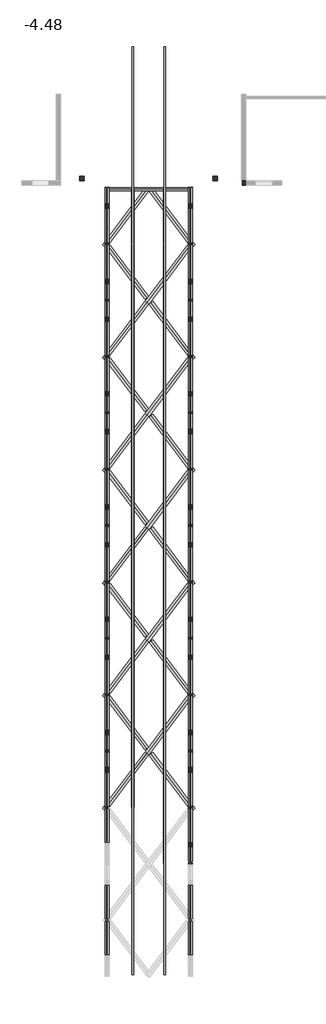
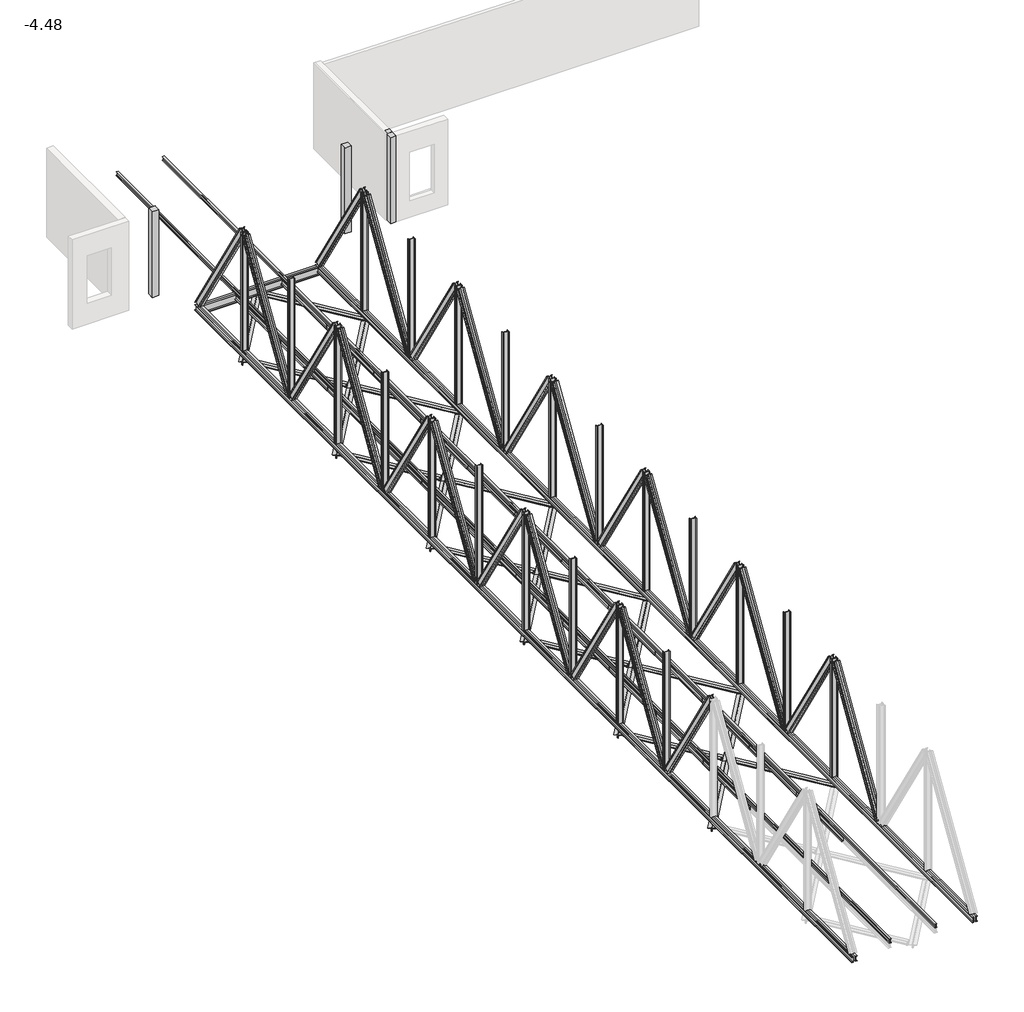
# One storey, part 3 of 4: 94 beams, 3 columns.
"""IFC4 building model written with IfcOpenShell, lengths in millimetres."""

from ifc_helpers import new_model, si_unit, origin, place, context, project, spatial, faceted_brep, transform, mapped, element, save
from components import beam_69747abd, beam_eb555228, beam_77b3a67a, beam_fd1f4b1d, beam_1ba59c2f, beam_2c250x37_978da5da, beam_2c250x37_2629953b, beam_2c250x37_c125c019, beam_2c250x37_d0_5cd3afa0, beam_2c250x37_d0_528e7289, beam_2c250x37_d0_b1fd0093, beam_2c380x74_f030002c, travi_ipe_ipe180_8526419e

model = new_model("IFC4")

# Units and contexts
model_context = context("Model", 3, world=origin())
ifc_project = project(units=[si_unit("LENGTHUNIT", "METRE", prefix="MILLI")], contexts=[model_context])

# Site, building, storey
site = spatial("IfcSite", under=ifc_project)
building = spatial("IfcBuilding", under=site)
storey = spatial("IfcBuildingStorey", under=building, Name="-4.48", Elevation=-4480.0)

# Beams
placement = place(None, origin())
beam_shape = beam_69747abd(model_context)
element("IfcBeam", 1, ObjectType="Profilati doppi a L : DCED150x12", at=placement, inside=storey, context=model_context, shape_type="MappedRepresentation", body=[
    mapped(beam_shape, transform((6661.2738573, -11553.3513769, -5576.4), x_axis=(-0.6018150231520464, 0.7986355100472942, 0.0), y_axis=(-0.7986355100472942, -0.6018150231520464, 0.0), z_axis=(0.0, 0.0, 1.0))),
])
element("IfcBeam", 2, ObjectType="Profilati doppi a L : DCED150x12", at=placement, inside=storey, context=model_context, shape_type="MappedRepresentation", body=[
    mapped(beam_shape, transform((6661.2738573, -4124.7799483, -5576.4), x_axis=(-0.6018150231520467, 0.798635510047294, 0.0), y_axis=(-0.798635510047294, -0.6018150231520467, 0.0), z_axis=(0.0, 0.0, 1.0))),
])
element("IfcBeam", 3, ObjectType="Profilati doppi a L : DCED150x12", at=placement, inside=storey, context=model_context, shape_type="MappedRepresentation", body=[
    mapped(beam_shape, transform((6661.2738573, 3303.7914803, -5576.4), x_axis=(-0.6018150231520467, 0.798635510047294, 0.0), y_axis=(-0.798635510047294, -0.6018150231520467, 0.0), z_axis=(0.0, 0.0, 1.0))),
])
element("IfcBeam", 4, ObjectType="Profilati doppi a L : DCED150x12", at=placement, inside=storey, context=model_context, shape_type="MappedRepresentation", body=[
    mapped(beam_shape, transform((6661.2738573, 10732.3629088, -5576.4), x_axis=(-0.6018150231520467, 0.798635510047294, 0.0), y_axis=(-0.798635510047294, -0.6018150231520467, 0.0), z_axis=(0.0, 0.0, 1.0))),
])
element("IfcBeam", 5, ObjectType="Profilati doppi a L : DCED150x12", at=placement, inside=storey, context=model_context, shape_type="MappedRepresentation", body=[
    mapped(beam_shape, transform((6661.2738573, 18160.9343374, -5576.4), x_axis=(-0.6018150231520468, 0.7986355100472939, 0.0), y_axis=(-0.7986355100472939, -0.6018150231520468, 0.0), z_axis=(0.0, 0.0, 1.0))),
])
beam_2_shape = beam_eb555228(model_context)
element("IfcBeam", 6, ObjectType="Profilati doppi a L : DCED150x12", at=placement, inside=storey, context=model_context, shape_type="MappedRepresentation", body=[
    mapped(beam_2_shape, transform((9429.6229638, -11553.3513769, -5576.4), x_axis=(0.6018150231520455, 0.7986355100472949, 0.0), y_axis=(-0.7986355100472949, 0.6018150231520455, 0.0), z_axis=(0.0, 0.0, 1.0))),
])
element("IfcBeam", 7, ObjectType="Profilati doppi a L : DCED150x12", at=placement, inside=storey, context=model_context, shape_type="MappedRepresentation", body=[
    mapped(beam_2_shape, transform((9429.6229638, -4124.7799483, -5576.4), x_axis=(0.6018150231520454, 0.7986355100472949, 0.0), y_axis=(-0.7986355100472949, 0.6018150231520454, 0.0), z_axis=(0.0, 0.0, 1.0))),
])
element("IfcBeam", 8, ObjectType="Profilati doppi a L : DCED150x12", at=placement, inside=storey, context=model_context, shape_type="MappedRepresentation", body=[
    mapped(beam_2_shape, transform((9429.6229638, 3303.7914803, -5576.4), x_axis=(0.6018150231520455, 0.7986355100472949, 0.0), y_axis=(-0.7986355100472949, 0.6018150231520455, 0.0), z_axis=(0.0, 0.0, 1.0))),
])
element("IfcBeam", 9, ObjectType="Profilati doppi a L : DCED150x12", at=placement, inside=storey, context=model_context, shape_type="MappedRepresentation", body=[
    mapped(beam_2_shape, transform((9429.6229638, 10732.3629088, -5576.4), x_axis=(0.6018150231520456, 0.7986355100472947, 0.0), y_axis=(-0.7986355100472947, 0.6018150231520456, 0.0), z_axis=(0.0, 0.0, 1.0))),
])
element("IfcBeam", 10, ObjectType="Profilati doppi a L : DCED150x12", at=placement, inside=storey, context=model_context, shape_type="MappedRepresentation", body=[
    mapped(beam_2_shape, transform((9429.6229638, 18160.9343374, -5576.4), x_axis=(0.6018150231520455, 0.7986355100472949, 0.0), y_axis=(-0.7986355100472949, 0.6018150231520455, 0.0), z_axis=(0.0, 0.0, 1.0))),
])
beam_3_shape = beam_77b3a67a(model_context)
element("IfcBeam", 11, ObjectType="Profilati doppi a L : DCED150x12", at=placement, inside=storey, context=model_context, shape_type="MappedRepresentation", body=[
    mapped(beam_3_shape, transform((6661.2738573, -15200.2275836, -5576.4), x_axis=(-0.6018150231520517, -0.7986355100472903, 0.0), y_axis=(0.7986355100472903, -0.6018150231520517, 0.0), z_axis=(0.0, 0.0, 1.0))),
])
element("IfcBeam", 12, ObjectType="Profilati doppi a L : DCED150x12", at=placement, inside=storey, context=model_context, shape_type="MappedRepresentation", body=[
    mapped(beam_3_shape, transform((6661.2738573, -7771.656155, -5576.4), x_axis=(-0.6018150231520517, -0.7986355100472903, 0.0), y_axis=(0.7986355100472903, -0.6018150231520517, 0.0), z_axis=(0.0, 0.0, 1.0))),
])
element("IfcBeam", 13, ObjectType="Profilati doppi a L : DCED150x12", at=placement, inside=storey, context=model_context, shape_type="MappedRepresentation", body=[
    mapped(beam_3_shape, transform((6661.2738573, -343.0847265, -5576.4), x_axis=(-0.6018150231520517, -0.7986355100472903, 0.0), y_axis=(0.7986355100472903, -0.6018150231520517, 0.0), z_axis=(0.0, 0.0, 1.0))),
])
element("IfcBeam", 14, ObjectType="Profilati doppi a L : DCED150x12", at=placement, inside=storey, context=model_context, shape_type="MappedRepresentation", body=[
    mapped(beam_3_shape, transform((6661.2738573, 7085.4867021, -5576.4), x_axis=(-0.6018150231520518, -0.7986355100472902, 0.0), y_axis=(0.7986355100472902, -0.6018150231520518, 0.0), z_axis=(0.0, 0.0, 1.0))),
])
element("IfcBeam", 15, ObjectType="Profilati doppi a L : DCED150x12", at=placement, inside=storey, context=model_context, shape_type="MappedRepresentation", body=[
    mapped(beam_3_shape, transform((6661.2738573, 14514.0581307, -5576.4), x_axis=(-0.6018150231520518, -0.7986355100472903, 0.0), y_axis=(0.7986355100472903, -0.6018150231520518, 0.0), z_axis=(0.0, 0.0, 1.0))),
])
element("IfcBeam", 16, ObjectType="Profilati doppi a L : DCED150x12", at=placement, inside=storey, context=model_context, shape_type="MappedRepresentation", body=[
    mapped(beam_3_shape, transform((6661.2738573, 21942.6295593, -5576.4), x_axis=(-0.6018150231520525, -0.7986355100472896, 0.0), y_axis=(0.7986355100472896, -0.6018150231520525, 0.0), z_axis=(0.0, 0.0, 1.0))),
])
beam_4_shape = beam_fd1f4b1d(model_context)
element("IfcBeam", 17, ObjectType="Profilati doppi a L : DCED150x12", at=placement, inside=storey, context=model_context, shape_type="MappedRepresentation", body=[
    mapped(beam_4_shape, transform((9429.6229638, -15200.2275836, -5576.4), x_axis=(0.6018150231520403, -0.7986355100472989, 0.0), y_axis=(0.7986355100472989, 0.6018150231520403, 0.0), z_axis=(0.0, 0.0, 1.0))),
])
element("IfcBeam", 18, ObjectType="Profilati doppi a L : DCED150x12", at=placement, inside=storey, context=model_context, shape_type="MappedRepresentation", body=[
    mapped(beam_4_shape, transform((9429.6229638, -7771.656155, -5576.4), x_axis=(0.6018150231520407, -0.7986355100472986, 0.0), y_axis=(0.7986355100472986, 0.6018150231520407, 0.0), z_axis=(0.0, 0.0, 1.0))),
])
element("IfcBeam", 19, ObjectType="Profilati doppi a L : DCED150x12", at=placement, inside=storey, context=model_context, shape_type="MappedRepresentation", body=[
    mapped(beam_4_shape, transform((9429.6229638, -343.0847265, -5576.4), x_axis=(0.6018150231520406, -0.7986355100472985, 0.0), y_axis=(0.7986355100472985, 0.6018150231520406, 0.0), z_axis=(0.0, 0.0, 1.0))),
])
element("IfcBeam", 20, ObjectType="Profilati doppi a L : DCED150x12", at=placement, inside=storey, context=model_context, shape_type="MappedRepresentation", body=[
    mapped(beam_4_shape, transform((9429.6229638, 7085.4867021, -5576.4), x_axis=(0.6018150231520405, -0.7986355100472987, 0.0), y_axis=(0.7986355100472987, 0.6018150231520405, 0.0), z_axis=(0.0, 0.0, 1.0))),
])
element("IfcBeam", 21, ObjectType="Profilati doppi a L : DCED150x12", at=placement, inside=storey, context=model_context, shape_type="MappedRepresentation", body=[
    mapped(beam_4_shape, transform((9429.6229638, 14514.0581307, -5576.4), x_axis=(0.6018150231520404, -0.7986355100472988, 0.0), y_axis=(0.7986355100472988, 0.6018150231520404, 0.0), z_axis=(0.0, 0.0, 1.0))),
])
beam_5_shape = beam_1ba59c2f(model_context)
element("IfcBeam", 22, ObjectType="Profilati doppi a L : DCED150x12", at=placement, inside=storey, context=model_context, shape_type="MappedRepresentation", body=[
    mapped(beam_5_shape, transform((9429.6229638, 21942.6295593, -5576.4), x_axis=(0.6018150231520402, -0.7986355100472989, 0.0), y_axis=(0.7986355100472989, 0.6018150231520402, 0.0), z_axis=(0.0, 0.0, 1.0))),
])
beam_2c250x37_shape = beam_2c250x37_978da5da(model_context)
element("IfcBeam", 23, ObjectType="Profilato a doppia C : 2C250X37", at=placement, inside=storey, context=model_context, shape_type="MappedRepresentation", body=[
    mapped(beam_2c250x37_shape, transform((5292.3573777, -2234.1384365, -5273.1164855), x_axis=(0.0, -1.0, 0.0), y_axis=(1.0, 0.0, 0.0), z_axis=(0.0, 0.0, 1.0))),
])
element("IfcBeam", 24, ObjectType="Profilato a doppia C : 2C250X37", at=placement, inside=storey, context=model_context, shape_type="MappedRepresentation", body=[
    mapped(beam_2c250x37_shape, transform((10792.3573777, -2234.1384365, -5273.1164855), x_axis=(0.0, -1.0, 0.0), y_axis=(1.0, 0.0, 0.0), z_axis=(0.0, 0.0, 1.0))),
])
beam_2c250x37_2_shape = beam_2c250x37_2629953b(model_context)
element("IfcBeam", 25, ObjectType="Profilato a doppia C : 2C250X37", at=placement, inside=storey, context=model_context, shape_type="MappedRepresentation", body=[
    mapped(beam_2c250x37_2_shape, transform((5292.3573777, -376.9955794, -2273.1164855), x_axis=(0.0, -0.5263546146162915, 0.8502651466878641), y_axis=(-1.0, 0.0, 0.0), z_axis=(0.0, -0.8502651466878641, -0.5263546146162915))),
])
element("IfcBeam", 26, ObjectType="Profilato a doppia C : 2C250X37", at=placement, inside=storey, context=model_context, shape_type="MappedRepresentation", body=[
    mapped(beam_2c250x37_2_shape, transform((5292.3573777, 7051.5758492, -2273.1164855), x_axis=(0.0, -0.5263546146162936, 0.850265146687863), y_axis=(-1.0, 0.0, 0.0), z_axis=(0.0, -0.850265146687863, -0.5263546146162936))),
])
element("IfcBeam", 27, ObjectType="Profilato a doppia C : 2C250X37", at=placement, inside=storey, context=model_context, shape_type="MappedRepresentation", body=[
    mapped(beam_2c250x37_2_shape, transform((5292.3573777, 3337.2901349, -2273.1164855), x_axis=(0.0, -0.5263546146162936, -0.8502651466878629), y_axis=(-1.0, 0.0, 0.0), z_axis=(0.0, 0.8502651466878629, -0.5263546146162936))),
])
element("IfcBeam", 28, ObjectType="Profilato a doppia C : 2C250X37", at=placement, inside=storey, context=model_context, shape_type="MappedRepresentation", body=[
    mapped(beam_2c250x37_2_shape, transform((5292.3573777, 10765.8615635, -2273.1164855), x_axis=(0.0, -0.5263546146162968, -0.8502651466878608), y_axis=(-1.0, 0.0, 0.0), z_axis=(0.0, 0.8502651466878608, -0.5263546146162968))),
])
element("IfcBeam", 29, ObjectType="Profilato a doppia C : 2C250X37", at=placement, inside=storey, context=model_context, shape_type="MappedRepresentation", body=[
    mapped(beam_2c250x37_2_shape, transform((5292.3573777, -4091.2812937, -2273.1164855), x_axis=(0.0, -0.5263546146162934, -0.850265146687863), y_axis=(-1.0, 0.0, 0.0), z_axis=(0.0, 0.850265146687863, -0.5263546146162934))),
])
element("IfcBeam", 30, ObjectType="Profilato a doppia C : 2C250X37", at=placement, inside=storey, context=model_context, shape_type="MappedRepresentation", body=[
    mapped(beam_2c250x37_2_shape, transform((5292.3573777, -7805.567008, -2273.1164855), x_axis=(0.0, -0.5263546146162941, 0.8502651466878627), y_axis=(-1.0, 0.0, 0.0), z_axis=(0.0, -0.8502651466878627, -0.5263546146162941))),
])
element("IfcBeam", 31, ObjectType="Profilato a doppia C : 2C250X37", at=placement, inside=storey, context=model_context, shape_type="MappedRepresentation", body=[
    mapped(beam_2c250x37_2_shape, transform((5292.3573777, -11519.8527222, -2273.1164855), x_axis=(0.0, -0.5263546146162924, -0.8502651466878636), y_axis=(-1.0, 0.0, 0.0), z_axis=(0.0, 0.8502651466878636, -0.5263546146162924))),
])
element("IfcBeam", 32, ObjectType="Profilato a doppia C : 2C250X37", at=placement, inside=storey, context=model_context, shape_type="MappedRepresentation", body=[
    mapped(beam_2c250x37_2_shape, transform((5292.3573777, -15234.1384365, -2273.1164855), x_axis=(0.0, -0.5263546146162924, 0.8502651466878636), y_axis=(-1.0, 0.0, 0.0), z_axis=(0.0, -0.8502651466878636, -0.5263546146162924))),
])
element("IfcBeam", 33, ObjectType="Profilato a doppia C : 2C250X37", at=placement, inside=storey, context=model_context, shape_type="MappedRepresentation", body=[
    mapped(beam_2c250x37_2_shape, transform((5292.3573777, 14480.1472778, -2273.1164855), x_axis=(0.0, -0.5263546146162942, 0.8502651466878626), y_axis=(-1.0, 0.0, 0.0), z_axis=(0.0, -0.8502651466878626, -0.5263546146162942))),
])
element("IfcBeam", 34, ObjectType="Profilato a doppia C : 2C250X37", at=placement, inside=storey, context=model_context, shape_type="MappedRepresentation", body=[
    mapped(beam_2c250x37_2_shape, transform((5292.3573777, 18194.432992, -2273.1164855), x_axis=(0.0, -0.5263546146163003, -0.8502651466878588), y_axis=(-1.0, 0.0, 0.0), z_axis=(0.0, 0.8502651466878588, -0.5263546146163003))),
])
element("IfcBeam", 35, ObjectType="Profilato a doppia C : 2C250X37", at=placement, inside=storey, context=model_context, shape_type="MappedRepresentation", body=[
    mapped(beam_2c250x37_2_shape, transform((10792.3573777, -376.9955794, -2273.1164855), x_axis=(0.0, -0.5263546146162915, 0.8502651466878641), y_axis=(-1.0, 0.0, 0.0), z_axis=(0.0, -0.8502651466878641, -0.5263546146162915))),
])
element("IfcBeam", 36, ObjectType="Profilato a doppia C : 2C250X37", at=placement, inside=storey, context=model_context, shape_type="MappedRepresentation", body=[
    mapped(beam_2c250x37_2_shape, transform((10792.3573777, 7051.5758492, -2273.1164855), x_axis=(0.0, -0.5263546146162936, 0.850265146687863), y_axis=(-1.0, 0.0, 0.0), z_axis=(0.0, -0.850265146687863, -0.5263546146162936))),
])
element("IfcBeam", 37, ObjectType="Profilato a doppia C : 2C250X37", at=placement, inside=storey, context=model_context, shape_type="MappedRepresentation", body=[
    mapped(beam_2c250x37_2_shape, transform((10792.3573777, 3337.2901349, -2273.1164855), x_axis=(0.0, -0.5263546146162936, -0.8502651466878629), y_axis=(-1.0, 0.0, 0.0), z_axis=(0.0, 0.8502651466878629, -0.5263546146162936))),
])
element("IfcBeam", 38, ObjectType="Profilato a doppia C : 2C250X37", at=placement, inside=storey, context=model_context, shape_type="MappedRepresentation", body=[
    mapped(beam_2c250x37_2_shape, transform((10792.3573777, 10765.8615635, -2273.1164855), x_axis=(0.0, -0.5263546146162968, -0.8502651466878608), y_axis=(-1.0, 0.0, 0.0), z_axis=(0.0, 0.8502651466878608, -0.5263546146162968))),
])
element("IfcBeam", 39, ObjectType="Profilato a doppia C : 2C250X37", at=placement, inside=storey, context=model_context, shape_type="MappedRepresentation", body=[
    mapped(beam_2c250x37_2_shape, transform((10792.3573777, -4091.2812937, -2273.1164855), x_axis=(0.0, -0.5263546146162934, -0.850265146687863), y_axis=(-1.0, 0.0, 0.0), z_axis=(0.0, 0.850265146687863, -0.5263546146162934))),
])
element("IfcBeam", 40, ObjectType="Profilato a doppia C : 2C250X37", at=placement, inside=storey, context=model_context, shape_type="MappedRepresentation", body=[
    mapped(beam_2c250x37_2_shape, transform((10792.3573777, -7805.567008, -2273.1164855), x_axis=(0.0, -0.5263546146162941, 0.8502651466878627), y_axis=(-1.0, 0.0, 0.0), z_axis=(0.0, -0.8502651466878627, -0.5263546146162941))),
])
element("IfcBeam", 41, ObjectType="Profilato a doppia C : 2C250X37", at=placement, inside=storey, context=model_context, shape_type="MappedRepresentation", body=[
    mapped(beam_2c250x37_2_shape, transform((10792.3573777, -11519.8527222, -2273.1164855), x_axis=(0.0, -0.5263546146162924, -0.8502651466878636), y_axis=(-1.0, 0.0, 0.0), z_axis=(0.0, 0.8502651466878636, -0.5263546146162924))),
])
element("IfcBeam", 42, ObjectType="Profilato a doppia C : 2C250X37", at=placement, inside=storey, context=model_context, shape_type="MappedRepresentation", body=[
    mapped(beam_2c250x37_2_shape, transform((10792.3573777, -15234.1384365, -2273.1164855), x_axis=(0.0, -0.5263546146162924, 0.8502651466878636), y_axis=(-1.0, 0.0, 0.0), z_axis=(0.0, -0.8502651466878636, -0.5263546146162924))),
])
element("IfcBeam", 43, ObjectType="Profilato a doppia C : 2C250X37", at=placement, inside=storey, context=model_context, shape_type="MappedRepresentation", body=[
    mapped(beam_2c250x37_2_shape, transform((10792.3573777, 14480.1472778, -2273.1164855), x_axis=(0.0, -0.5263546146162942, 0.8502651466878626), y_axis=(-1.0, 0.0, 0.0), z_axis=(0.0, -0.8502651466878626, -0.5263546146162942))),
])
element("IfcBeam", 44, ObjectType="Profilato a doppia C : 2C250X37", at=placement, inside=storey, context=model_context, shape_type="MappedRepresentation", body=[
    mapped(beam_2c250x37_2_shape, transform((10792.3573777, 18194.432992, -2273.1164855), x_axis=(0.0, -0.5263546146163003, -0.8502651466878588), y_axis=(-1.0, 0.0, 0.0), z_axis=(0.0, 0.8502651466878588, -0.5263546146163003))),
])
element("IfcBeam", 45, ObjectType="Profilato a doppia C : 2C250X37", at=placement, inside=storey, context=model_context, shape_type="MappedRepresentation", body=[
    mapped(beam_2c250x37_2_shape, transform((10792.3573777, -18948.4241508, -2273.1164855), x_axis=(0.0, -0.5263546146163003, -0.8502651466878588), y_axis=(-1.0, 0.0, 0.0), z_axis=(0.0, 0.8502651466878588, -0.5263546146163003))),
])
beam_2c250x37_3_shape = beam_2c250x37_c125c019(model_context)
element("IfcBeam", 46, ObjectType="Profilato a doppia C : 2C250X37", at=placement, inside=storey, context=model_context, shape_type="MappedRepresentation", body=[
    mapped(beam_2c250x37_3_shape, transform((5292.3573777, 21908.7187063, -2273.1164855), x_axis=(0.0, -0.5263546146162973, 0.8502651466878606), y_axis=(-1.0, 0.0, 0.0), z_axis=(0.0, -0.8502651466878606, -0.5263546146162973))),
])
element("IfcBeam", 47, ObjectType="Profilato a doppia C : 2C250X37", at=placement, inside=storey, context=model_context, shape_type="MappedRepresentation", body=[
    mapped(beam_2c250x37_3_shape, transform((10792.3573777, 21908.7187063, -2273.1164855), x_axis=(0.0, -0.5263546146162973, 0.8502651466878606), y_axis=(-1.0, 0.0, 0.0), z_axis=(0.0, -0.8502651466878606, -0.5263546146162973))),
])
beam_2c250x37_d0_shape = beam_2c250x37_d0_5cd3afa0(model_context)
element("IfcBeam", 48, ObjectType="Profilato a doppia C : 2C250X37 d0", at=placement, inside=storey, context=model_context, shape_type="MappedRepresentation", body=[
    mapped(beam_2c250x37_d0_shape, transform((5292.3573777, -2234.1384365, -2273.1164855), x_axis=(0.0, 0.0, 1.0), y_axis=(0.0, 1.0, 0.0), z_axis=(-1.0, 0.0, 0.0))),
])
element("IfcBeam", 49, ObjectType="Profilato a doppia C : 2C250X37 d0", at=placement, inside=storey, context=model_context, shape_type="MappedRepresentation", body=[
    mapped(beam_2c250x37_d0_shape, transform((5292.3573777, 1480.1472778, -2273.1164855), x_axis=(0.0, 0.0, 1.0), y_axis=(0.0, 1.0, 0.0), z_axis=(-1.0, 0.0, 0.0))),
])
element("IfcBeam", 50, ObjectType="Profilato a doppia C : 2C250X37 d0", at=placement, inside=storey, context=model_context, shape_type="MappedRepresentation", body=[
    mapped(beam_2c250x37_d0_shape, transform((5292.3573777, 5194.432992, -2273.1164855), x_axis=(0.0, 0.0, 1.0), y_axis=(0.0, 1.0, 0.0), z_axis=(-1.0, 0.0, 0.0))),
])
element("IfcBeam", 51, ObjectType="Profilato a doppia C : 2C250X37 d0", at=placement, inside=storey, context=model_context, shape_type="MappedRepresentation", body=[
    mapped(beam_2c250x37_d0_shape, transform((5292.3573777, 8908.7187063, -2273.1164855), x_axis=(0.0, 0.0, 1.0), y_axis=(0.0, 1.0, 0.0), z_axis=(-1.0, 0.0, 0.0))),
])
element("IfcBeam", 52, ObjectType="Profilato a doppia C : 2C250X37 d0", at=placement, inside=storey, context=model_context, shape_type="MappedRepresentation", body=[
    mapped(beam_2c250x37_d0_shape, transform((5292.3573777, 12623.0044206, -2273.1164855), x_axis=(0.0, 0.0, 1.0), y_axis=(0.0, 1.0, 0.0), z_axis=(-1.0, 0.0, 0.0))),
])
element("IfcBeam", 53, ObjectType="Profilato a doppia C : 2C250X37 d0", at=placement, inside=storey, context=model_context, shape_type="MappedRepresentation", body=[
    mapped(beam_2c250x37_d0_shape, transform((5292.3573777, -5948.4241508, -2273.1164855), x_axis=(0.0, 0.0, 1.0), y_axis=(0.0, 1.0, 0.0), z_axis=(-1.0, 0.0, 0.0))),
])
element("IfcBeam", 54, ObjectType="Profilato a doppia C : 2C250X37 d0", at=placement, inside=storey, context=model_context, shape_type="MappedRepresentation", body=[
    mapped(beam_2c250x37_d0_shape, transform((5292.3573777, -9662.7098651, -2273.1164855), x_axis=(0.0, 0.0, 1.0), y_axis=(0.0, 1.0, 0.0), z_axis=(-1.0, 0.0, 0.0))),
])
element("IfcBeam", 55, ObjectType="Profilato a doppia C : 2C250X37 d0", at=placement, inside=storey, context=model_context, shape_type="MappedRepresentation", body=[
    mapped(beam_2c250x37_d0_shape, transform((5292.3573777, -13376.9955794, -2273.1164855), x_axis=(0.0, 0.0, 1.0), y_axis=(0.0, 1.0, 0.0), z_axis=(-1.0, 0.0, 0.0))),
])
element("IfcBeam", 56, ObjectType="Profilato a doppia C : 2C250X37 d0", at=placement, inside=storey, context=model_context, shape_type="MappedRepresentation", body=[
    mapped(beam_2c250x37_d0_shape, transform((5292.3573777, 16337.2901349, -2273.1164855), x_axis=(0.0, 0.0, 1.0), y_axis=(0.0, 1.0, 0.0), z_axis=(-1.0, 0.0, 0.0))),
])
element("IfcBeam", 57, ObjectType="Profilato a doppia C : 2C250X37 d0", at=placement, inside=storey, context=model_context, shape_type="MappedRepresentation", body=[
    mapped(beam_2c250x37_d0_shape, transform((5292.3573777, 20051.5758492, -2273.1164855), x_axis=(0.0, 0.0, 1.0), y_axis=(0.0, 1.0, 0.0), z_axis=(-1.0, 0.0, 0.0))),
])
element("IfcBeam", 58, ObjectType="Profilato a doppia C : 2C250X37 d0", at=placement, inside=storey, context=model_context, shape_type="MappedRepresentation", body=[
    mapped(beam_2c250x37_d0_shape, transform((10792.3573777, -2234.1384365, -2273.1164855), x_axis=(0.0, 0.0, 1.0), y_axis=(0.0, 1.0, 0.0), z_axis=(-1.0, 0.0, 0.0))),
])
element("IfcBeam", 59, ObjectType="Profilato a doppia C : 2C250X37 d0", at=placement, inside=storey, context=model_context, shape_type="MappedRepresentation", body=[
    mapped(beam_2c250x37_d0_shape, transform((10792.3573777, 1480.1472778, -2273.1164855), x_axis=(0.0, 0.0, 1.0), y_axis=(0.0, 1.0, 0.0), z_axis=(-1.0, 0.0, 0.0))),
])
element("IfcBeam", 60, ObjectType="Profilato a doppia C : 2C250X37 d0", at=placement, inside=storey, context=model_context, shape_type="MappedRepresentation", body=[
    mapped(beam_2c250x37_d0_shape, transform((10792.3573777, 5194.432992, -2273.1164855), x_axis=(0.0, 0.0, 1.0), y_axis=(0.0, 1.0, 0.0), z_axis=(-1.0, 0.0, 0.0))),
])
element("IfcBeam", 61, ObjectType="Profilato a doppia C : 2C250X37 d0", at=placement, inside=storey, context=model_context, shape_type="MappedRepresentation", body=[
    mapped(beam_2c250x37_d0_shape, transform((10792.3573777, 8908.7187063, -2273.1164855), x_axis=(0.0, 0.0, 1.0), y_axis=(0.0, 1.0, 0.0), z_axis=(-1.0, 0.0, 0.0))),
])
element("IfcBeam", 62, ObjectType="Profilato a doppia C : 2C250X37 d0", at=placement, inside=storey, context=model_context, shape_type="MappedRepresentation", body=[
    mapped(beam_2c250x37_d0_shape, transform((10792.3573777, 12623.0044206, -2273.1164855), x_axis=(0.0, 0.0, 1.0), y_axis=(0.0, 1.0, 0.0), z_axis=(-1.0, 0.0, 0.0))),
])
element("IfcBeam", 63, ObjectType="Profilato a doppia C : 2C250X37 d0", at=placement, inside=storey, context=model_context, shape_type="MappedRepresentation", body=[
    mapped(beam_2c250x37_d0_shape, transform((10792.3573777, -5948.4241508, -2273.1164855), x_axis=(0.0, 0.0, 1.0), y_axis=(0.0, 1.0, 0.0), z_axis=(-1.0, 0.0, 0.0))),
])
element("IfcBeam", 64, ObjectType="Profilato a doppia C : 2C250X37 d0", at=placement, inside=storey, context=model_context, shape_type="MappedRepresentation", body=[
    mapped(beam_2c250x37_d0_shape, transform((10792.3573777, -9662.7098651, -2273.1164855), x_axis=(0.0, 0.0, 1.0), y_axis=(0.0, 1.0, 0.0), z_axis=(-1.0, 0.0, 0.0))),
])
element("IfcBeam", 65, ObjectType="Profilato a doppia C : 2C250X37 d0", at=placement, inside=storey, context=model_context, shape_type="MappedRepresentation", body=[
    mapped(beam_2c250x37_d0_shape, transform((10792.3573777, -13376.9955794, -2273.1164855), x_axis=(0.0, 0.0, 1.0), y_axis=(0.0, 1.0, 0.0), z_axis=(-1.0, 0.0, 0.0))),
])
element("IfcBeam", 66, ObjectType="Profilato a doppia C : 2C250X37 d0", at=placement, inside=storey, context=model_context, shape_type="MappedRepresentation", body=[
    mapped(beam_2c250x37_d0_shape, transform((10792.3573777, -17091.2812937, -2273.1164855), x_axis=(0.0, 0.0, 1.0), y_axis=(0.0, 1.0, 0.0), z_axis=(-1.0, 0.0, 0.0))),
])
element("IfcBeam", 67, ObjectType="Profilato a doppia C : 2C250X37 d0", at=placement, inside=storey, context=model_context, shape_type="MappedRepresentation", body=[
    mapped(beam_2c250x37_d0_shape, transform((10792.3573777, 16337.2901349, -2273.1164855), x_axis=(0.0, 0.0, 1.0), y_axis=(0.0, 1.0, 0.0), z_axis=(-1.0, 0.0, 0.0))),
])
element("IfcBeam", 68, ObjectType="Profilato a doppia C : 2C250X37 d0", at=placement, inside=storey, context=model_context, shape_type="MappedRepresentation", body=[
    mapped(beam_2c250x37_d0_shape, transform((10792.3573777, 20051.5758492, -2273.1164855), x_axis=(0.0, 0.0, 1.0), y_axis=(0.0, 1.0, 0.0), z_axis=(-1.0, 0.0, 0.0))),
])
beam_2c250x37_d0_2_shape = beam_2c250x37_d0_528e7289(model_context)
element("IfcBeam", 69, ObjectType="Profilato a doppia C : 2C250X37 d0", at=placement, inside=storey, context=model_context, shape_type="MappedRepresentation", body=[
    mapped(beam_2c250x37_d0_2_shape, transform((6992.3573777, 21855.6887972, -5280.1164855), x_axis=(0.0, 1.0, 0.0), y_axis=(-1.0, 0.0, 0.0), z_axis=(0.0, 0.0, 1.0))),
])
element("IfcBeam", 70, ObjectType="Profilato a doppia C : 2C250X37 d0", at=placement, inside=storey, context=model_context, shape_type="MappedRepresentation", body=[
    mapped(beam_2c250x37_d0_2_shape, transform((9092.3573777, 21855.6887972, -5280.1164855), x_axis=(0.0, 1.0, 0.0), y_axis=(-1.0, 0.0, 0.0), z_axis=(0.0, 0.0, 1.0))),
])
beam_2c250x37_d0_3_shape = beam_2c250x37_d0_b1fd0093(model_context)
element("IfcBeam", 71, ObjectType="Profilato a doppia C : 2C250X37 d0", at=placement, inside=storey, context=model_context, shape_type="MappedRepresentation", body=[
    mapped(beam_2c250x37_d0_3_shape, transform((6992.3573777, 18261.6091821, -5280.1995524), x_axis=(0.0, 1.0, 0.0), y_axis=(-1.0, 0.0, 0.0), z_axis=(0.0, 0.0, 1.0))),
])
element("IfcBeam", 72, ObjectType="Profilato a doppia C : 2C250X37 d0", at=placement, inside=storey, context=model_context, shape_type="MappedRepresentation", body=[
    mapped(beam_2c250x37_d0_3_shape, transform((6992.3573777, 14547.3234678, -5280.1995524), x_axis=(0.0, 1.0, 0.0), y_axis=(-1.0, 0.0, 0.0), z_axis=(0.0, 0.0, 1.0))),
])
element("IfcBeam", 73, ObjectType="Profilato a doppia C : 2C250X37 d0", at=placement, inside=storey, context=model_context, shape_type="MappedRepresentation", body=[
    mapped(beam_2c250x37_d0_3_shape, transform((6992.3573777, 10833.0377535, -5280.1995524), x_axis=(0.0, 1.0, 0.0), y_axis=(-1.0, 0.0, 0.0), z_axis=(0.0, 0.0, 1.0))),
])
element("IfcBeam", 74, ObjectType="Profilato a doppia C : 2C250X37 d0", at=placement, inside=storey, context=model_context, shape_type="MappedRepresentation", body=[
    mapped(beam_2c250x37_d0_3_shape, transform((6992.3573777, 7118.7520392, -5280.1995524), x_axis=(0.0, 1.0, 0.0), y_axis=(-1.0, 0.0, 0.0), z_axis=(0.0, 0.0, 1.0))),
])
element("IfcBeam", 75, ObjectType="Profilato a doppia C : 2C250X37 d0", at=placement, inside=storey, context=model_context, shape_type="MappedRepresentation", body=[
    mapped(beam_2c250x37_d0_3_shape, transform((6992.3573777, 3404.4663249, -5280.1995524), x_axis=(0.0, 1.0, 0.0), y_axis=(-1.0, 0.0, 0.0), z_axis=(0.0, 0.0, 1.0))),
])
element("IfcBeam", 76, ObjectType="Profilato a doppia C : 2C250X37 d0", at=placement, inside=storey, context=model_context, shape_type="MappedRepresentation", body=[
    mapped(beam_2c250x37_d0_3_shape, transform((6992.3573777, -309.8193893, -5280.1995524), x_axis=(0.0, 1.0, 0.0), y_axis=(-1.0, 0.0, 0.0), z_axis=(0.0, 0.0, 1.0))),
])
element("IfcBeam", 77, ObjectType="Profilato a doppia C : 2C250X37 d0", at=placement, inside=storey, context=model_context, shape_type="MappedRepresentation", body=[
    mapped(beam_2c250x37_d0_3_shape, transform((6992.3573777, -4024.1051036, -5280.1995524), x_axis=(0.0, 1.0, 0.0), y_axis=(-1.0, 0.0, 0.0), z_axis=(0.0, 0.0, 1.0))),
])
element("IfcBeam", 78, ObjectType="Profilato a doppia C : 2C250X37 d0", at=placement, inside=storey, context=model_context, shape_type="MappedRepresentation", body=[
    mapped(beam_2c250x37_d0_3_shape, transform((6992.3573777, -7738.3908179, -5280.1995524), x_axis=(0.0, 1.0, 0.0), y_axis=(-1.0, 0.0, 0.0), z_axis=(0.0, 0.0, 1.0))),
])
element("IfcBeam", 79, ObjectType="Profilato a doppia C : 2C250X37 d0", at=placement, inside=storey, context=model_context, shape_type="MappedRepresentation", body=[
    mapped(beam_2c250x37_d0_3_shape, transform((6992.3573777, -11452.6765322, -5280.1995524), x_axis=(0.0, 1.0, 0.0), y_axis=(-1.0, 0.0, 0.0), z_axis=(0.0, 0.0, 1.0))),
])
element("IfcBeam", 80, ObjectType="Profilato a doppia C : 2C250X37 d0", at=placement, inside=storey, context=model_context, shape_type="MappedRepresentation", body=[
    mapped(beam_2c250x37_d0_3_shape, transform((6992.3573777, -15166.9622465, -5280.1995524), x_axis=(0.0, 1.0, 0.0), y_axis=(-1.0, 0.0, 0.0), z_axis=(0.0, 0.0, 1.0))),
])
element("IfcBeam", 81, ObjectType="Profilato a doppia C : 2C250X37 d0", at=placement, inside=storey, context=model_context, shape_type="MappedRepresentation", body=[
    mapped(beam_2c250x37_d0_3_shape, transform((9092.3573777, 18261.6091821, -5280.1995524), x_axis=(0.0, 1.0, 0.0), y_axis=(-1.0, 0.0, 0.0), z_axis=(0.0, 0.0, 1.0))),
])
element("IfcBeam", 82, ObjectType="Profilato a doppia C : 2C250X37 d0", at=placement, inside=storey, context=model_context, shape_type="MappedRepresentation", body=[
    mapped(beam_2c250x37_d0_3_shape, transform((9092.3573777, 14547.3234678, -5280.1995524), x_axis=(0.0, 1.0, 0.0), y_axis=(-1.0, 0.0, 0.0), z_axis=(0.0, 0.0, 1.0))),
])
element("IfcBeam", 83, ObjectType="Profilato a doppia C : 2C250X37 d0", at=placement, inside=storey, context=model_context, shape_type="MappedRepresentation", body=[
    mapped(beam_2c250x37_d0_3_shape, transform((9092.3573777, 10833.0377535, -5280.1995524), x_axis=(0.0, 1.0, 0.0), y_axis=(-1.0, 0.0, 0.0), z_axis=(0.0, 0.0, 1.0))),
])
element("IfcBeam", 84, ObjectType="Profilato a doppia C : 2C250X37 d0", at=placement, inside=storey, context=model_context, shape_type="MappedRepresentation", body=[
    mapped(beam_2c250x37_d0_3_shape, transform((9092.3573777, 7118.7520392, -5280.1995524), x_axis=(0.0, 1.0, 0.0), y_axis=(-1.0, 0.0, 0.0), z_axis=(0.0, 0.0, 1.0))),
])
element("IfcBeam", 85, ObjectType="Profilato a doppia C : 2C250X37 d0", at=placement, inside=storey, context=model_context, shape_type="MappedRepresentation", body=[
    mapped(beam_2c250x37_d0_3_shape, transform((9092.3573777, 3404.4663249, -5280.1995524), x_axis=(0.0, 1.0, 0.0), y_axis=(-1.0, 0.0, 0.0), z_axis=(0.0, 0.0, 1.0))),
])
element("IfcBeam", 86, ObjectType="Profilato a doppia C : 2C250X37 d0", at=placement, inside=storey, context=model_context, shape_type="MappedRepresentation", body=[
    mapped(beam_2c250x37_d0_3_shape, transform((9092.3573777, -309.8193893, -5280.1995524), x_axis=(0.0, 1.0, 0.0), y_axis=(-1.0, 0.0, 0.0), z_axis=(0.0, 0.0, 1.0))),
])
element("IfcBeam", 87, ObjectType="Profilato a doppia C : 2C250X37 d0", at=placement, inside=storey, context=model_context, shape_type="MappedRepresentation", body=[
    mapped(beam_2c250x37_d0_3_shape, transform((9092.3573777, -4024.1051036, -5280.1995524), x_axis=(0.0, 1.0, 0.0), y_axis=(-1.0, 0.0, 0.0), z_axis=(0.0, 0.0, 1.0))),
])
element("IfcBeam", 88, ObjectType="Profilato a doppia C : 2C250X37 d0", at=placement, inside=storey, context=model_context, shape_type="MappedRepresentation", body=[
    mapped(beam_2c250x37_d0_3_shape, transform((9092.3573777, -7738.3908179, -5280.1995524), x_axis=(0.0, 1.0, 0.0), y_axis=(-1.0, 0.0, 0.0), z_axis=(0.0, 0.0, 1.0))),
])
element("IfcBeam", 89, ObjectType="Profilato a doppia C : 2C250X37 d0", at=placement, inside=storey, context=model_context, shape_type="MappedRepresentation", body=[
    mapped(beam_2c250x37_d0_3_shape, transform((9092.3573777, -11452.6765322, -5280.1995524), x_axis=(0.0, 1.0, 0.0), y_axis=(-1.0, 0.0, 0.0), z_axis=(0.0, 0.0, 1.0))),
])
element("IfcBeam", 90, ObjectType="Profilato a doppia C : 2C250X37 d0", at=placement, inside=storey, context=model_context, shape_type="MappedRepresentation", body=[
    mapped(beam_2c250x37_d0_3_shape, transform((9092.3573777, -15166.9622465, -5280.1995524), x_axis=(0.0, 1.0, 0.0), y_axis=(-1.0, 0.0, 0.0), z_axis=(0.0, 0.0, 1.0))),
])
element("IfcBeam", 91, ObjectType="Profilato a doppia C : 2C250X37 d0", at=placement, inside=storey, context=model_context, shape_type="MappedRepresentation", body=[
    mapped(beam_2c250x37_d0_3_shape, transform((9092.3573777, -18881.2479608, -5280.1995524), x_axis=(0.0, 1.0, 0.0), y_axis=(-1.0, 0.0, 0.0), z_axis=(0.0, 0.0, 1.0))),
])
beam_2c380x74_shape = beam_2c380x74_f030002c(model_context)
element("IfcBeam", 92, ObjectType="Profilato a doppia C : 2C380X74", at=placement, inside=storey, context=model_context, shape_type="MappedRepresentation", body=[
    mapped(beam_2c380x74_shape, transform((8042.3573777, 23645.8615635, -5343.6164855), x_axis=(1.0, 0.0, 0.0), y_axis=(0.0, 1.0, 0.0), z_axis=(0.0, 0.0, 1.0))),
])
travi_ipe_ipe180_shape = travi_ipe_ipe180_8526419e(model_context)
element("IfcBeam", 93, ObjectType="Travi IPE : IPE180", at=placement, inside=storey, context=model_context, shape_type="MappedRepresentation", body=[
    mapped(travi_ipe_ipe180_shape, transform((6992.3573777, 25762.699488, -5063.1995524), x_axis=(0.0, 1.0, 0.0), y_axis=(-1.0, 0.0, 0.0), z_axis=(0.0, 0.0, 1.0))),
])
element("IfcBeam", 94, ObjectType="Travi IPE : IPE180", at=placement, inside=storey, context=model_context, shape_type="MappedRepresentation", body=[
    mapped(travi_ipe_ipe180_shape, transform((9092.3573777, 25762.699488, -5063.1995524), x_axis=(0.0, 1.0, 0.0), y_axis=(-1.0, 0.0, 0.0), z_axis=(0.0, 0.0, 1.0))),
])

# Columns
element("IfcColumn", 95, ObjectType="Pilastro in calcestruzzo - Rettangolare : 250 x 550", at=placement, inside=storey, context=model_context, shape_type="Brep", body=[
    faceted_brep([(14467.3573777, 24463.3920265, -4480.0), (14467.3573777, 24213.3920265, -4480.0), (14467.3573777, 23913.3920265, -4480.0), (14217.3573777, 23913.3920265, -4480.0), (14217.3573777, 24463.3920265, -4480.0), (14467.3573777, 24463.3920265, -646.8719955), (14467.3573777, 24213.3920265, -646.8719955), (14467.3573777, 24213.3920265, -586.8719955), (14467.3573777, 24463.3920265, -586.8719955), (14467.3573777, 24463.3920265, -330.0), (14467.3573777, 23913.3920265, -330.0), (14467.3573777, 23913.3920265, -331.8172029), (14217.3573777, 23913.3920265, -330.0), (14217.3573777, 24263.3920265, -330.0), (14217.3573777, 24463.3920265, -330.0), (14217.3573777, 24463.3920265, -620.0), (14354.7536752, 24463.3920265, -330.0), (14442.3573777, 24463.3920265, -586.6636645), (14442.3573777, 24463.3920265, -646.6636645), (14442.3573777, 24213.3920265, -646.6636645), (14442.3573777, 24213.3920265, -586.6636645)], [[[0, 1, 2, 3, 4]], [[2, 1, 0, 5, 6, 7, 8, 9, 10, 11]], [[3, 2, 11, 10, 12]], [[4, 3, 12, 13, 14, 15]], [[0, 4, 15, 14, 16, 9, 8, 17, 18, 5]], [[10, 9, 16, 14, 13, 12]], [[19, 20, 7, 6]], [[7, 20, 17, 8]], [[18, 19, 6, 5]], [[20, 19, 18, 17]]]),
])
element("IfcColumn", 96, ObjectType="Pilastro in calcestruzzo - Rettangolare : 300 x 300", at=placement, inside=storey, context=model_context, shape_type="Brep", body=[
    faceted_brep([(12592.3573777, 24513.3920265, -4480.0), (12592.3573777, 24213.3920265, -4480.0), (12292.3573777, 24213.3920265, -4480.0), (12292.3573777, 24513.3920265, -4480.0), (12592.3573777, 24513.3920265, -342.507238), (12592.3573777, 24463.3920265, -342.507238), (12592.3573777, 24263.3920265, -342.507238), (12592.3573777, 24213.3920265, -342.507238), (12292.3573777, 24213.3920265, -342.507238), (12292.3573777, 24263.3920265, -342.507238), (12292.3573777, 24463.3920265, -342.507238), (12292.3573777, 24513.3920265, -342.507238)], [[[0, 1, 2, 3]], [[4, 5, 6, 7, 1, 0]], [[7, 8, 2, 1]], [[8, 9, 10, 11, 3, 2]], [[11, 4, 0, 3]], [[4, 11, 10, 9, 8, 7, 6, 5]]]),
])
element("IfcColumn", 97, ObjectType="Pilastro in calcestruzzo - Rettangolare : 300 x 300", at=placement, inside=storey, context=model_context, shape_type="Brep", body=[
    faceted_brep([(3792.3573777, 24513.3920265, -4480.0), (3792.3573777, 24213.3920265, -4480.0), (3492.3573777, 24213.3920265, -4480.0), (3492.3573777, 24513.3920265, -4480.0), (3792.3573777, 24513.3920265, -342.507238), (3792.3573777, 24463.3920265, -342.507238), (3792.3573777, 24263.3920265, -342.507238), (3792.3573777, 24213.3920265, -342.507238), (3492.3573777, 24213.3920265, -342.507238), (3492.3573777, 24263.3920265, -342.507238), (3492.3573777, 24463.3920265, -342.507238), (3492.3573777, 24513.3920265, -342.507238)], [[[0, 1, 2, 3]], [[4, 5, 6, 7, 1, 0]], [[7, 8, 2, 1]], [[8, 9, 10, 11, 3, 2]], [[11, 4, 0, 3]], [[4, 11, 10, 9, 8, 7, 6, 5]]]),
])

save(model, "model.ifc")
